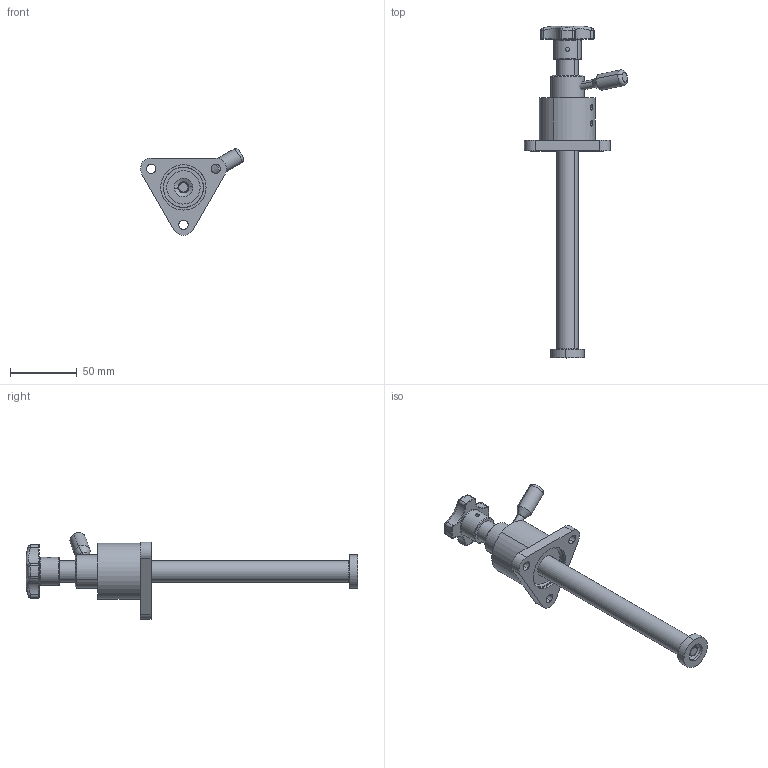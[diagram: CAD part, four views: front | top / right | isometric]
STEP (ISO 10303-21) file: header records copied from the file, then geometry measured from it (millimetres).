
FILE_DESCRIPTION (( 'STEP AP203' ), '1' );
FILE_NAME ('KFRF-16.STEP', '2015-12-02T10:29:48', ( 'Ricardo' ), ( '' ), 'SwSTEP 2.0', 'SolidWorks 2015', '' );
FILE_SCHEMA (( 'CONFIG_CONTROL_DESIGN' ));
Length unit declared in the file: millimetre
Products named in the file (13): 12.50121; 02.30028; 13.20002; 15.30011; 20.20056; 18.30005 A; 16.20122; 18.30005 B; KFRF-16; 18.30005 C; 15.30012; 15.30013; 15.30014
Assembly tree (12 placements, depth 2):
  KFRF-16
    02.30028
    15.30011
    18.30005 A
    18.30005 B
    18.30005 C
    15.30012
    15.30013
    15.30014
    12.50121
    13.20002
    20.20056
    16.20122
Bounding box: 77.34 x 248.85 x 65.11 mm (x, y, z)
Volume: 107641.4 mm3; surface area: 48472.3 mm2
Topology: 12 solids, 12 shells, 457 faces, 1194 edges, 767 vertices
Faces by surface type: cylinder 172, bspline 122, plane 88, cone 36, torus 31, sphere 8
Entity records: 133535 total; most frequent: CARTESIAN_POINT 122176, ORIENTED_EDGE 2388, DIRECTION 1764, EDGE_CURVE 1194, VERTEX_POINT 767, AXIS2_PLACEMENT_3D 697, EDGE_LOOP 493, ADVANCED_FACE 457
